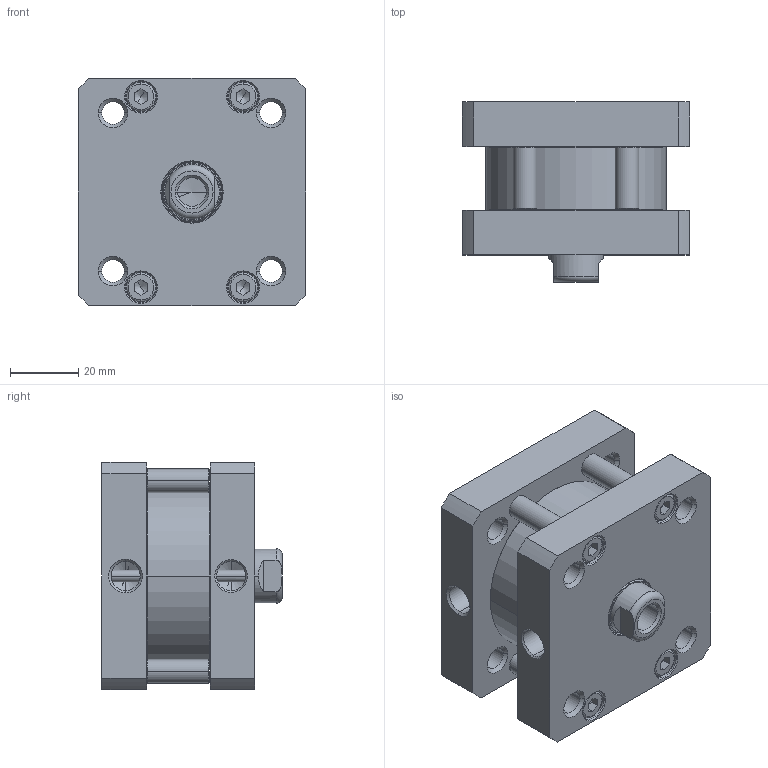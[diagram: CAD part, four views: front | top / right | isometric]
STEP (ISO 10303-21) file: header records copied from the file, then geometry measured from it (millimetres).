
FILE_DESCRIPTION(('STEP AP203'),'1');
FILE_NAME('84M50G000 - course 0mm.stp','2022-05-30T09:15:26',(' '),(' '),'Spatial InterOp 3D',' ',' ');
FILE_SCHEMA(('CONFIG_CONTROL_DESIGN'));
Length unit declared in the file: metre
Products named in the file (6): 84M50G000 - course 0mm; CORPO-000; STELO-000; TA; TIRANTE-000; TP
Assembly tree (8 placements, depth 2):
  84M50G000 - course 0mm
    CORPO-000
    STELO-000
    TA
    TIRANTE-000  x4
    TP
Bounding box: 67 x 53 x 67 mm (x, y, z)
Volume: 119944 mm3; surface area: 42154.4 mm2
Topology: 8 solids, 17 shells, 405 faces, 954 edges, 581 vertices
Faces by surface type: cone 162, cylinder 116, plane 103, torus 24
Entity records: 11654 total; most frequent: CARTESIAN_POINT 2773, DIRECTION 1908, ORIENTED_EDGE 1696, EDGE_CURVE 848, AXIS2_PLACEMENT_3D 770, VERTEX_POINT 533, EDGE_LOOP 427, CIRCLE 394
